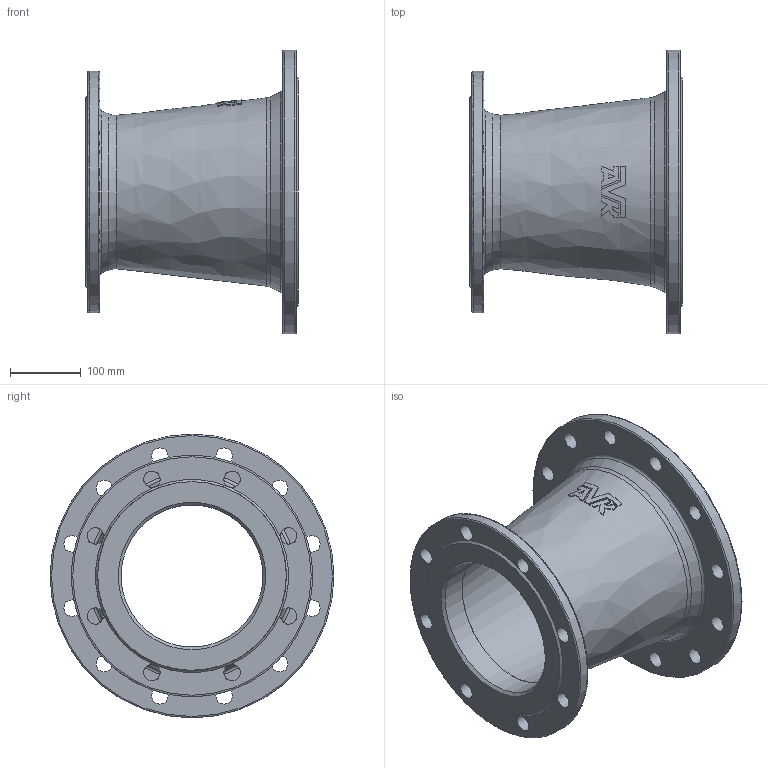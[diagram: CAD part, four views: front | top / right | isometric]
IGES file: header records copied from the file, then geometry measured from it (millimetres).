
Start section: SolidWorks IGES file using analytic representation for surfaces
Global section: file name: \\avksan2\techshare\PBM outline export from Enovia\O_712_2210_DN250_DN200_0X_REV01.igs; native system: SolidWorks 2022; preprocessor: SolidWorks 2022; author: pbm; date: 240807.142731; units: millimetre
Bounding box: 300 x 400 x 400 mm (x, y, z)
Surface area: 706417.3 mm2 (no closed solid volume)
Topology: 0 solids, 0 shells, 89 faces, 440 edges, 390 vertices
Faces by surface type: revolution 48, bspline 41
